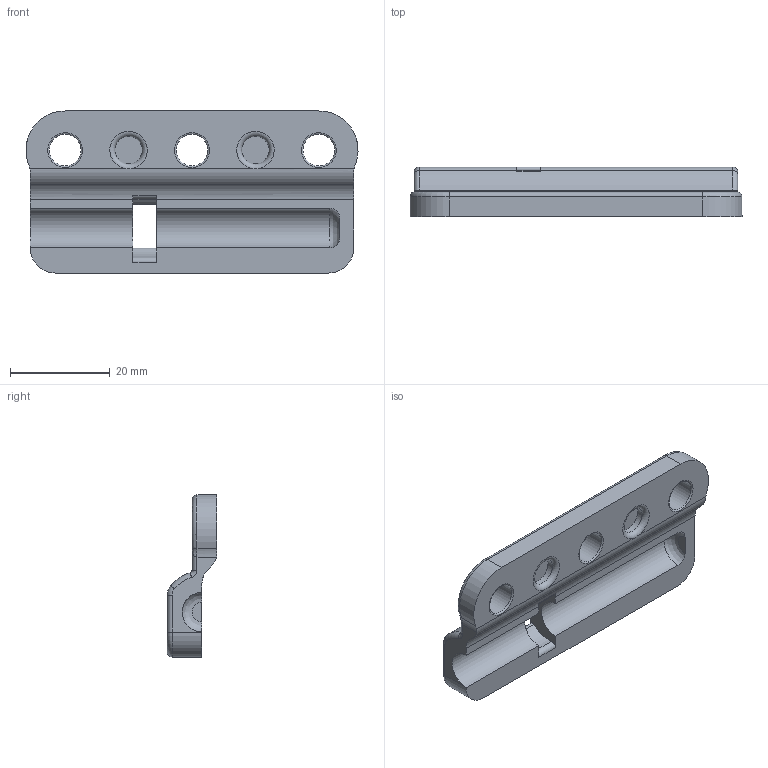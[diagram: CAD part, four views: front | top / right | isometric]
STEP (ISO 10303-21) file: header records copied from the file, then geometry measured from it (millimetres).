
FILE_DESCRIPTION(/* description */ (''),/* implementation_level */ '2;1');
FILE_NAME(/* name */ 'upper_holder_LARGE_BORE_V3.step',/* time_stamp */ '2023-02-20T17:40:02-06:00',/* author */ (''),/* organization */ (''),/* preprocessor_version */ 'ST-DEVELOPER v19.2',/* originating_system */ 'Autodesk Translation Framework v11.17.0.187',/* authorisation */ '');
FILE_SCHEMA (('AUTOMOTIVE_DESIGN { 1 0 10303 214 3 1 1 }'));
Length unit declared in the file: millimetre
Products named in the file (1): upper_holder
Bounding box: 66.49 x 10 x 32.47 mm (x, y, z)
Volume: 9621.1 mm3; surface area: 5881.4 mm2
Topology: 1 solids, 1 shells, 66 faces, 180 edges, 112 vertices
Faces by surface type: cylinder 31, torus 18, plane 14, bspline 3
Full cylindrical faces by diameter (mm): 5.5 x2, 6.35 x3
Entity records: 2256 total; most frequent: CARTESIAN_POINT 487, DIRECTION 401, ORIENTED_EDGE 356, EDGE_CURVE 178, AXIS2_PLACEMENT_3D 169, VERTEX_POINT 112, CIRCLE 105, EDGE_LOOP 72
